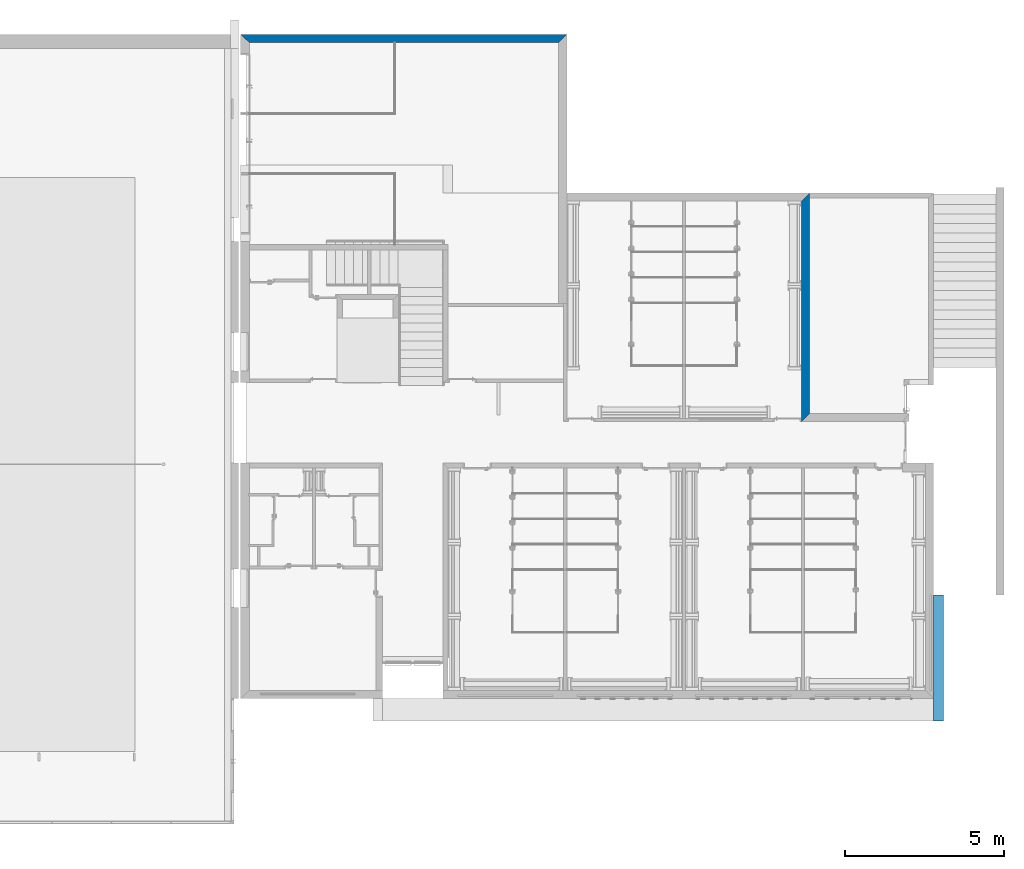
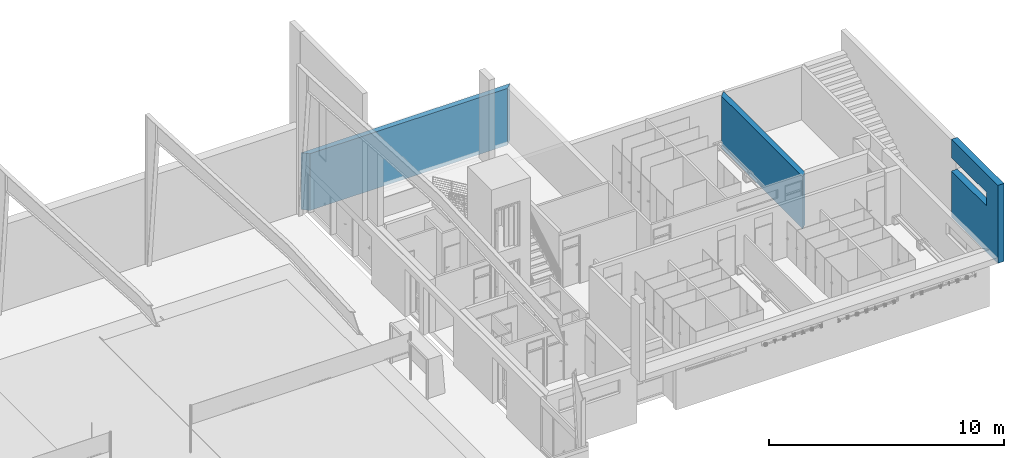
# One storey, part 28 of 45: 3 walls, 1 opening.
"""IFC2X3 building model written with IfcOpenShell, lengths in metres."""

from ifc_helpers import new_model, entity, si_unit, converted_unit, money_unit, direction, frame, origin_with_axes, place, context, subcontext, project, spatial, polyline, outline, extrude, material, layer, layer_set, layer_usage, type_object, element, save


model = new_model("IFC2X3")

# Units and contexts
model_context = context("Model", 3, precision=1e-05, world=origin_with_axes(), true_north=direction((0.0, 1.0)))
body_context = subcontext(model_context, "Body", "Model", "MODEL_VIEW")
ifc_project = project(units=[si_unit("LENGTHUNIT", "METRE"), si_unit("AREAUNIT", "SQUARE_METRE"), si_unit("VOLUMEUNIT", "CUBIC_METRE"), converted_unit("PLANEANGLEUNIT", "DEGREE", entity("IfcPlaneAngleMeasure", 0.0174532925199), si_unit("PLANEANGLEUNIT", "RADIAN"), dimensions=[0, 0, 0, 0, 0, 0, 0]), si_unit("SOLIDANGLEUNIT", "STERADIAN"), money_unit("EUR"), converted_unit("TIMEUNIT", "Year", entity("IfcTimeMeasure", 31556926.0), si_unit("TIMEUNIT", "SECOND"), dimensions=[0, 0, 0, 0, 0, 0, 0]), si_unit("MASSUNIT", "GRAM"), si_unit("THERMODYNAMICTEMPERATUREUNIT", "DEGREE_CELSIUS"), si_unit("LUMINOUSINTENSITYUNIT", "LUMEN")], contexts=[model_context])

# Site, building, storey
site_placement = place(None, origin_with_axes())
site = spatial("IfcSite", under=ifc_project, at=site_placement, Name="Site", CompositionType="ELEMENT")
building_placement = place(site_placement, origin_with_axes())
building = spatial("IfcBuilding", under=site, at=building_placement, Name="Bâtiment", CompositionType="ELEMENT")
storey_placement = place(building_placement, origin_with_axes())
storey = spatial("IfcBuildingStorey", under=building, at=storey_placement, Name="NIVEAU BAS GYMNASE", CompositionType="ELEMENT", Elevation=0.0)

# Walls
ifc_material_1 = material(Name="Hachure solide* 2593434267")
ifc_layer_1 = layer(ifc_material_1, 0.16, ventilated="UNKNOWN")
ifc_material_2 = material(Name="Empty Fill 290923149")
ifc_layer_2 = layer(ifc_material_2, 0.08, ventilated="UNKNOWN")
ifc_material_3 = material(Name="Hachure solide* 3992800808")
ifc_layer_3 = layer(ifc_material_3, 0.02, ventilated="UNKNOWN")
ifc_layer_set_1 = layer_set([ifc_layer_1, ifc_layer_2, ifc_layer_3], Name="•GYMN 16+10 (1)")
ifc_layer_usage_1 = layer_usage(ifc_layer_set_1, "AXIS2", "POSITIVE", 0.0)
wall_type_1 = type_object("IfcWallType", Name="•GYMN 16+10 260", PredefinedType="NOTDEFINED")
wall_1_placement = place(storey_placement, frame((55.733457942, 26.7391158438, -0.2), z_axis=(0.0, 0.0, 1.0), x_axis=(-1.0, 0.0, 0.0)))
element("IfcWallStandardCase", 1, at=wall_1_placement, inside=storey, type_object=wall_type_1, material=ifc_layer_usage_1, Name="Mur-021", context=body_context, shape_type="SweptSolid", body=[
    extrude(outline(polyline([(0.0, 0.0), (10.255, 0.0), (9.975, 0.26), (0.26, 0.26), (0.0, 0.0)])), origin_with_axes(), (0.0, 0.0, 1.0), 2.95),
])
ifc_layer_usage_2 = layer_usage(ifc_layer_set_1, "AXIS2", "POSITIVE", 0.0)
wall_2_placement = place(storey_placement, frame((63.363457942, 14.568815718, 0.0), z_axis=(0.0, 0.0, 1.0), x_axis=(0.0, 1.0, 0.0)))
element("IfcWallStandardCase", 2, at=wall_2_placement, inside=storey, type_object=wall_type_1, material=ifc_layer_usage_2, Name="Mur-005", context=body_context, shape_type="SweptSolid", body=[
    extrude(outline(polyline([(0.26, 0.0), (7.19, 0.0), (6.93, 0.26), (0.0, 0.26), (0.26, 0.0)])), origin_with_axes(), (0.0, 0.0, 1.0), 2.7),
])

# Wall, opening
ifc_material_4 = material(Name="Aluminium 3973644675")
ifc_layer_4 = layer(ifc_material_4, 0.3, ventilated="UNKNOWN")
ifc_layer_set_2 = layer_set([ifc_layer_4], Name="Aluminium 3973644675 0.3")
ifc_layer_usage_3 = layer_usage(ifc_layer_set_2, "AXIS2", "POSITIVE", 0.0)
wall_type_2 = type_object("IfcWallType", Name="Aluminium 3973644675 300", PredefinedType="NOTDEFINED")
wall_3_placement = place(storey_placement, frame((67.558457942, 5.16881571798, 2.45), z_axis=(0.0, 0.0, 1.0), x_axis=(0.0, 1.0, 0.0)))
wall_3 = element("IfcWallStandardCase", 3, at=wall_3_placement, inside=storey, type_object=wall_type_2, material=ifc_layer_usage_3, Name="Mur-006", context=body_context, shape_type="SweptSolid", body=[
    extrude(outline(polyline([(0.0, 0.0), (3.96, 0.0), (3.96, 0.3), (0.0, 0.3), (0.0, 0.0)])), origin_with_axes(), (0.0, 0.0, 1.0), 4.05),
])
opening_placement = place(wall_3_placement, frame((2.46, 0.0, 2.4), z_axis=(0.0, 0.0, 1.0), x_axis=(1.0, 0.0, 0.0)))
element("IfcOpeningElement", 4, at=opening_placement, cuts=wall_3, Name="Fen-001", context=body_context, shape_type="SweptSolid", body=[
    extrude(outline(polyline([(-1.5, 0.7), (-1.5, 0.0), (1.5, 0.0), (1.5, 0.7), (-1.5, 0.7)])), frame((0.0, 0.08, 0.0), z_axis=(0.0, -1.0, 0.0), x_axis=(1.0, 0.0, 0.0)), (0.0, 0.0, 1.0), 0.3),
    extrude(outline(polyline([(-1.5, 0.0), (-1.5, -0.7), (1.5, -0.7), (1.5, 0.0), (-1.5, 0.0)])), frame((0.0, 0.08, 0.0), z_axis=(0.0, 1.0, 0.0), x_axis=(1.0, 0.0, 0.0)), (0.0, 0.0, 1.0), 0.3),
])

save(model, "model.ifc")
